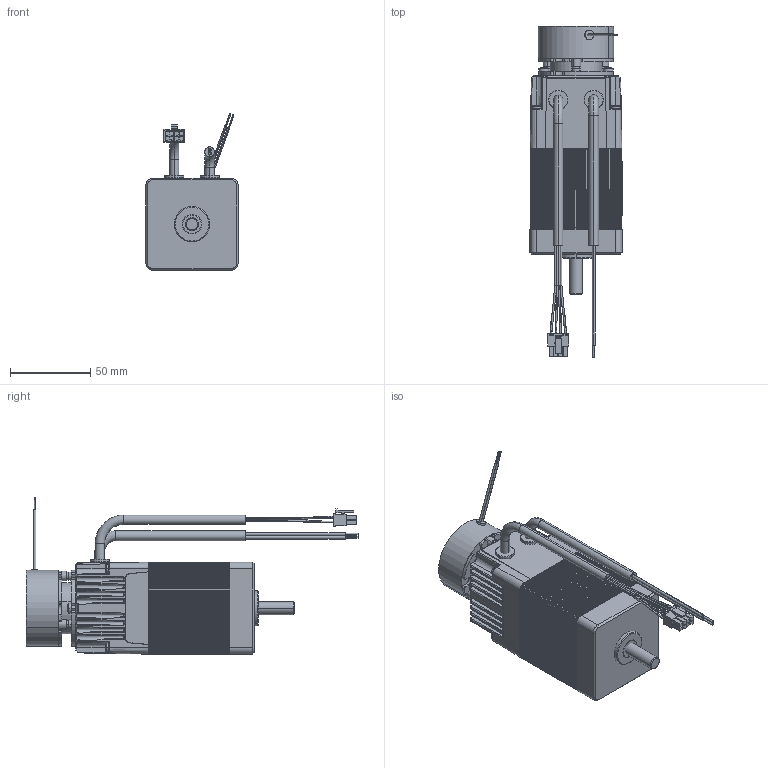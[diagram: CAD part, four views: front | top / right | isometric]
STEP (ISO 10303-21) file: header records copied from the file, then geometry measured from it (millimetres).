
FILE_DESCRIPTION((''),'2;1');
FILE_NAME('ENV_SIMP_STEP_TEMP','2012-10-24T',('VALJBL1'),('CROUZET-AUTOMATISMES'),'PRO/ENGINEER BY PARAMETRIC TECHNOLOGY CORPORATION, 2012090','PRO/ENGINEER BY PARAMETRIC TECHNOLOGY CORPORATION, 2012090','');
FILE_SCHEMA(('CONFIG_CONTROL_DESIGN'));
Products named in the file (1): ENV_SIMP_STEP_TEMP
Bounding box: 57.2 x 206.35 x 97.22 mm (x, y, z)
Surface area: 77706.3 mm2 (no closed solid volume)
Topology: 0 solids, 175 shells, 2044 faces, 5883 edges, 3895 vertices
Faces by surface type: plane 1000, cylinder 886, sphere 52, bspline 40, torus 36, cone 30
Entity records: 67171 total; most frequent: CARTESIAN_POINT 15283, DIRECTION 11636, ORIENTED_EDGE 8539, EDGE_CURVE 5883, AXIS2_PLACEMENT_3D 3902, VERTEX_POINT 3895, VECTOR 3832, LINE 3832
